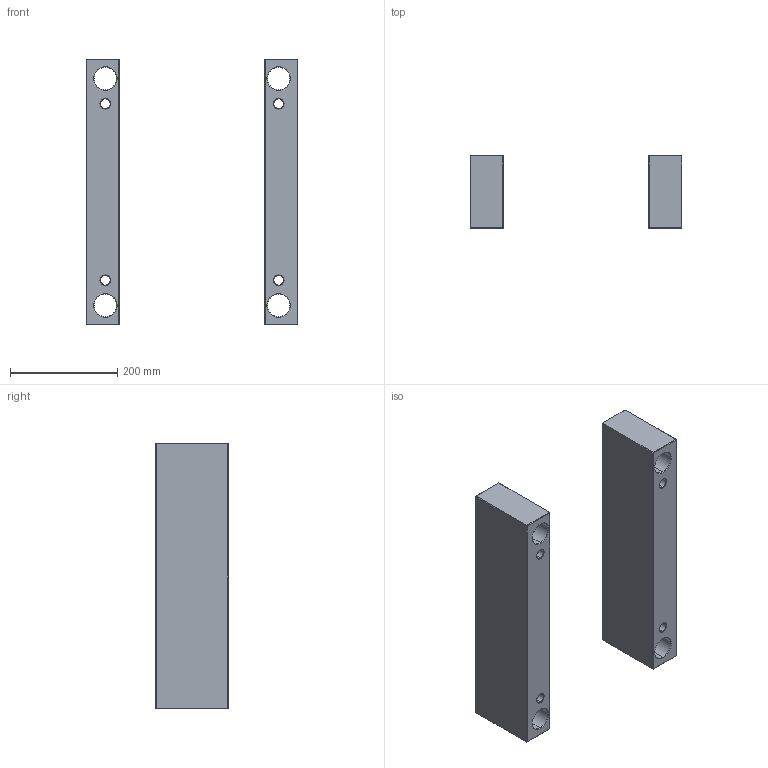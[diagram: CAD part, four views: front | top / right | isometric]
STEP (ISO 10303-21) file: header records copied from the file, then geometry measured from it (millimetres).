
FILE_DESCRIPTION (( 'STEP AP214' ), '1' );
FILE_NAME ('ESP-EU-396X496x136.STEP', '2020-04-16T11:43:22', ( 'August' ), ( '' ), 'SwSTEP 2.0', 'SolidWorks 2018', '' );
FILE_SCHEMA (( 'AUTOMOTIVE_DESIGN' ));
Length unit declared in the file: millimetre
Products named in the file (1): ESP-EU-396X496x136
Bounding box: 396 x 136 x 496 mm (x, y, z)
Volume: 7468896.1 mm3; surface area: 511861.5 mm2
Topology: 2 solids, 2 shells, 100 faces, 208 edges, 112 vertices
Faces by surface type: plane 52, cone 32, cylinder 16
Entity records: 2631 total; most frequent: DIRECTION 474, CARTESIAN_POINT 421, ORIENTED_EDGE 416, EDGE_CURVE 208, AXIS2_PLACEMENT_3D 165, VECTOR 144, LINE 144, EDGE_LOOP 116
